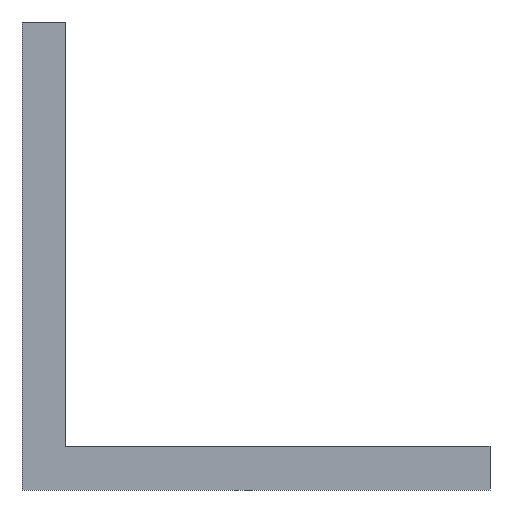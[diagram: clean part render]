
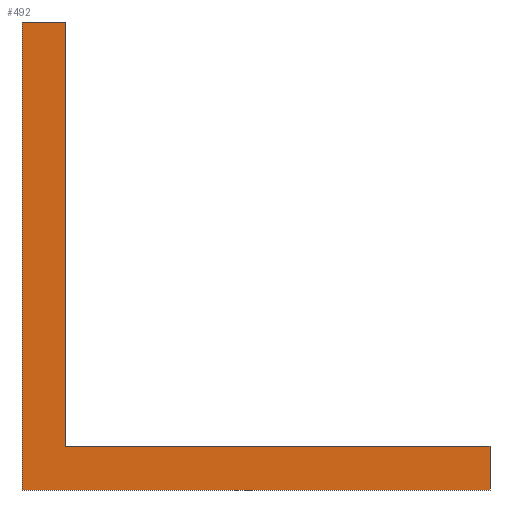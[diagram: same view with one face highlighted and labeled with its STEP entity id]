
A CAD part, front view. The second image highlights one B-rep face of the part: STEP entity #492.
In plain terms, the highlighted planar face has unit normal (0, -1, 0).
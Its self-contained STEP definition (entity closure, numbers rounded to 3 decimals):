
#24 = VERTEX_POINT('',#25);
#25 = CARTESIAN_POINT('',(1743.,-1715.,3114.));
#32 = PLANE('',#33);
#33 = AXIS2_PLACEMENT_3D('',#34,#35,#36);
#34 = CARTESIAN_POINT('',(1743.,1715.,3114.));
#35 = DIRECTION('',(-0.,0.,1.));
#36 = DIRECTION('',(1.,0.,0.));
#44 = PLANE('',#45);
#45 = AXIS2_PLACEMENT_3D('',#46,#47,#48);
#46 = CARTESIAN_POINT('',(1743.,1715.,3215.6));
#47 = DIRECTION('',(1.,0.,0.));
#48 = DIRECTION('',(0.,0.,-1.));
#56 = EDGE_CURVE('',#24,#57,#59,.T.);
#57 = VERTEX_POINT('',#58);
#58 = CARTESIAN_POINT('',(1844.6,-1715.,3114.));
#59 = SURFACE_CURVE('',#60,(#64,#71),.PCURVE_S1.);
#60 = LINE('',#61,#62);
#61 = CARTESIAN_POINT('',(1743.,-1715.,3114.));
#62 = VECTOR('',#63,1.);
#63 = DIRECTION('',(1.,0.,0.));
#64 = PCURVE('',#32,#65);
#65 = DEFINITIONAL_REPRESENTATION('',(#66),#70);
#66 = LINE('',#67,#68);
#67 = CARTESIAN_POINT('',(0.,-3430.));
#68 = VECTOR('',#69,1.);
#69 = DIRECTION('',(1.,0.));
#70 = ( GEOMETRIC_REPRESENTATION_CONTEXT(2) 
PARAMETRIC_REPRESENTATION_CONTEXT() REPRESENTATION_CONTEXT('2D SPACE',''
  ) );
#71 = PCURVE('',#72,#77);
#72 = PLANE('',#73);
#73 = AXIS2_PLACEMENT_3D('',#74,#75,#76);
#74 = CARTESIAN_POINT('',(1772.939,-1715.,
    3143.939));
#75 = DIRECTION('',(-0.,-1.,-0.));
#76 = DIRECTION('',(0.,0.,-1.));
#77 = DEFINITIONAL_REPRESENTATION('',(#78),#82);
#78 = LINE('',#79,#80);
#79 = CARTESIAN_POINT('',(29.939,-29.939));
#80 = VECTOR('',#81,1.);
#81 = DIRECTION('',(0.,1.));
#82 = ( GEOMETRIC_REPRESENTATION_CONTEXT(2) 
PARAMETRIC_REPRESENTATION_CONTEXT() REPRESENTATION_CONTEXT('2D SPACE',''
  ) );
#100 = PLANE('',#101);
#101 = AXIS2_PLACEMENT_3D('',#102,#103,#104);
#102 = CARTESIAN_POINT('',(1844.6,1715.,3114.));
#103 = DIRECTION('',(-1.,0.,0.));
#104 = DIRECTION('',(0.,0.,1.));
#142 = EDGE_CURVE('',#57,#143,#145,.T.);
#143 = VERTEX_POINT('',#144);
#144 = CARTESIAN_POINT('',(1844.6,-1715.,3123.525));
#145 = SURFACE_CURVE('',#146,(#150,#157),.PCURVE_S1.);
#146 = LINE('',#147,#148);
#147 = CARTESIAN_POINT('',(1844.6,-1715.,3114.));
#148 = VECTOR('',#149,1.);
#149 = DIRECTION('',(0.,0.,1.));
#150 = PCURVE('',#100,#151);
#151 = DEFINITIONAL_REPRESENTATION('',(#152),#156);
#152 = LINE('',#153,#154);
#153 = CARTESIAN_POINT('',(0.,-3430.));
#154 = VECTOR('',#155,1.);
#155 = DIRECTION('',(1.,0.));
#156 = ( GEOMETRIC_REPRESENTATION_CONTEXT(2) 
PARAMETRIC_REPRESENTATION_CONTEXT() REPRESENTATION_CONTEXT('2D SPACE',''
  ) );
#157 = PCURVE('',#72,#158);
#158 = DEFINITIONAL_REPRESENTATION('',(#159),#163);
#159 = LINE('',#160,#161);
#160 = CARTESIAN_POINT('',(29.939,71.661));
#161 = VECTOR('',#162,1.);
#162 = DIRECTION('',(-1.,0.));
#163 = ( GEOMETRIC_REPRESENTATION_CONTEXT(2) 
PARAMETRIC_REPRESENTATION_CONTEXT() REPRESENTATION_CONTEXT('2D SPACE',''
  ) );
#181 = PLANE('',#182);
#182 = AXIS2_PLACEMENT_3D('',#183,#184,#185);
#183 = CARTESIAN_POINT('',(1844.6,1715.,3123.525));
#184 = DIRECTION('',(-0.,-0.,-1.));
#185 = DIRECTION('',(-1.,0.,0.));
#218 = EDGE_CURVE('',#143,#219,#221,.T.);
#219 = VERTEX_POINT('',#220);
#220 = CARTESIAN_POINT('',(1752.525,-1715.,3123.525));
#221 = SURFACE_CURVE('',#222,(#226,#233),.PCURVE_S1.);
#222 = LINE('',#223,#224);
#223 = CARTESIAN_POINT('',(1844.6,-1715.,3123.525));
#224 = VECTOR('',#225,1.);
#225 = DIRECTION('',(-1.,0.,0.));
#226 = PCURVE('',#181,#227);
#227 = DEFINITIONAL_REPRESENTATION('',(#228),#232);
#228 = LINE('',#229,#230);
#229 = CARTESIAN_POINT('',(0.,-3430.));
#230 = VECTOR('',#231,1.);
#231 = DIRECTION('',(1.,0.));
#232 = ( GEOMETRIC_REPRESENTATION_CONTEXT(2) 
PARAMETRIC_REPRESENTATION_CONTEXT() REPRESENTATION_CONTEXT('2D SPACE',''
  ) );
#233 = PCURVE('',#72,#234);
#234 = DEFINITIONAL_REPRESENTATION('',(#235),#239);
#235 = LINE('',#236,#237);
#236 = CARTESIAN_POINT('',(20.414,71.661));
#237 = VECTOR('',#238,1.);
#238 = DIRECTION('',(0.,-1.));
#239 = ( GEOMETRIC_REPRESENTATION_CONTEXT(2) 
PARAMETRIC_REPRESENTATION_CONTEXT() REPRESENTATION_CONTEXT('2D SPACE',''
  ) );
#257 = PLANE('',#258);
#258 = AXIS2_PLACEMENT_3D('',#259,#260,#261);
#259 = CARTESIAN_POINT('',(1752.525,1715.,3123.525));
#260 = DIRECTION('',(-1.,0.,0.));
#261 = DIRECTION('',(0.,0.,1.));
#294 = EDGE_CURVE('',#219,#295,#297,.T.);
#295 = VERTEX_POINT('',#296);
#296 = CARTESIAN_POINT('',(1752.525,-1715.,3215.6));
#297 = SURFACE_CURVE('',#298,(#302,#309),.PCURVE_S1.);
#298 = LINE('',#299,#300);
#299 = CARTESIAN_POINT('',(1752.525,-1715.,3123.525));
#300 = VECTOR('',#301,1.);
#301 = DIRECTION('',(0.,0.,1.));
#302 = PCURVE('',#257,#303);
#303 = DEFINITIONAL_REPRESENTATION('',(#304),#308);
#304 = LINE('',#305,#306);
#305 = CARTESIAN_POINT('',(0.,-3430.));
#306 = VECTOR('',#307,1.);
#307 = DIRECTION('',(1.,0.));
#308 = ( GEOMETRIC_REPRESENTATION_CONTEXT(2) 
PARAMETRIC_REPRESENTATION_CONTEXT() REPRESENTATION_CONTEXT('2D SPACE',''
  ) );
#309 = PCURVE('',#72,#310);
#310 = DEFINITIONAL_REPRESENTATION('',(#311),#315);
#311 = LINE('',#312,#313);
#312 = CARTESIAN_POINT('',(20.414,-20.414));
#313 = VECTOR('',#314,1.);
#314 = DIRECTION('',(-1.,0.));
#315 = ( GEOMETRIC_REPRESENTATION_CONTEXT(2) 
PARAMETRIC_REPRESENTATION_CONTEXT() REPRESENTATION_CONTEXT('2D SPACE',''
  ) );
#333 = PLANE('',#334);
#334 = AXIS2_PLACEMENT_3D('',#335,#336,#337);
#335 = CARTESIAN_POINT('',(1752.525,1715.,3215.6));
#336 = DIRECTION('',(-0.,-0.,-1.));
#337 = DIRECTION('',(-1.,0.,0.));
#370 = EDGE_CURVE('',#295,#371,#373,.T.);
#371 = VERTEX_POINT('',#372);
#372 = CARTESIAN_POINT('',(1743.,-1715.,3215.6));
#373 = SURFACE_CURVE('',#374,(#378,#385),.PCURVE_S1.);
#374 = LINE('',#375,#376);
#375 = CARTESIAN_POINT('',(1752.525,-1715.,3215.6));
#376 = VECTOR('',#377,1.);
#377 = DIRECTION('',(-1.,0.,0.));
#378 = PCURVE('',#333,#379);
#379 = DEFINITIONAL_REPRESENTATION('',(#380),#384);
#380 = LINE('',#381,#382);
#381 = CARTESIAN_POINT('',(0.,-3430.));
#382 = VECTOR('',#383,1.);
#383 = DIRECTION('',(1.,0.));
#384 = ( GEOMETRIC_REPRESENTATION_CONTEXT(2) 
PARAMETRIC_REPRESENTATION_CONTEXT() REPRESENTATION_CONTEXT('2D SPACE',''
  ) );
#385 = PCURVE('',#72,#386);
#386 = DEFINITIONAL_REPRESENTATION('',(#387),#391);
#387 = LINE('',#388,#389);
#388 = CARTESIAN_POINT('',(-71.661,-20.414));
#389 = VECTOR('',#390,1.);
#390 = DIRECTION('',(0.,-1.));
#391 = ( GEOMETRIC_REPRESENTATION_CONTEXT(2) 
PARAMETRIC_REPRESENTATION_CONTEXT() REPRESENTATION_CONTEXT('2D SPACE',''
  ) );
#441 = EDGE_CURVE('',#371,#24,#442,.T.);
#442 = SURFACE_CURVE('',#443,(#447,#454),.PCURVE_S1.);
#443 = LINE('',#444,#445);
#444 = CARTESIAN_POINT('',(1743.,-1715.,3215.6));
#445 = VECTOR('',#446,1.);
#446 = DIRECTION('',(0.,0.,-1.));
#447 = PCURVE('',#44,#448);
#448 = DEFINITIONAL_REPRESENTATION('',(#449),#453);
#449 = LINE('',#450,#451);
#450 = CARTESIAN_POINT('',(0.,-3430.));
#451 = VECTOR('',#452,1.);
#452 = DIRECTION('',(1.,0.));
#453 = ( GEOMETRIC_REPRESENTATION_CONTEXT(2) 
PARAMETRIC_REPRESENTATION_CONTEXT() REPRESENTATION_CONTEXT('2D SPACE',''
  ) );
#454 = PCURVE('',#72,#455);
#455 = DEFINITIONAL_REPRESENTATION('',(#456),#460);
#456 = LINE('',#457,#458);
#457 = CARTESIAN_POINT('',(-71.661,-29.939));
#458 = VECTOR('',#459,1.);
#459 = DIRECTION('',(1.,0.));
#460 = ( GEOMETRIC_REPRESENTATION_CONTEXT(2) 
PARAMETRIC_REPRESENTATION_CONTEXT() REPRESENTATION_CONTEXT('2D SPACE',''
  ) );
#492 = ADVANCED_FACE('',(#493),#72,.T.);
#493 = FACE_BOUND('',#494,.T.);
#494 = EDGE_LOOP('',(#495,#496,#497,#498,#499,#500));
#495 = ORIENTED_EDGE('',*,*,#56,.T.);
#496 = ORIENTED_EDGE('',*,*,#142,.T.);
#497 = ORIENTED_EDGE('',*,*,#218,.T.);
#498 = ORIENTED_EDGE('',*,*,#294,.T.);
#499 = ORIENTED_EDGE('',*,*,#370,.T.);
#500 = ORIENTED_EDGE('',*,*,#441,.T.);
